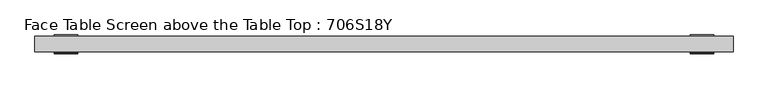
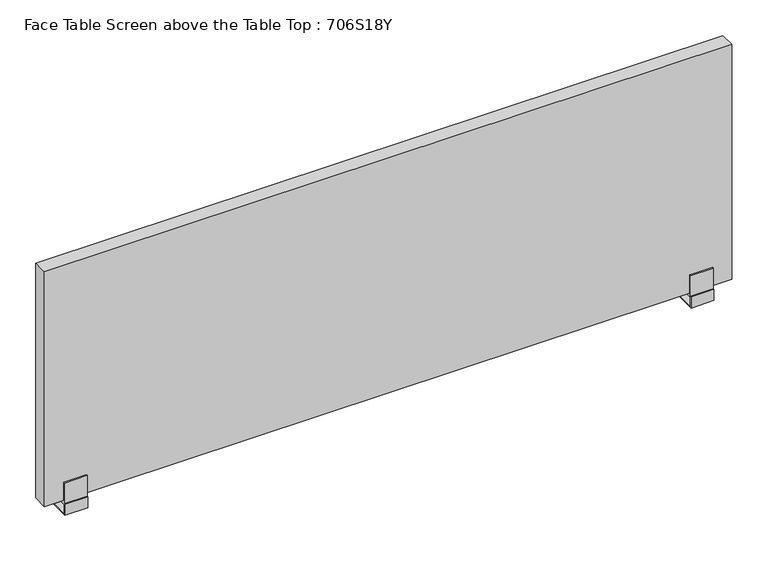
"""IFC4 building model written with IfcOpenShell, lengths in millimetres: furniture geometry, Face Table Screen above the Table Top : 706S18Y."""

from ifc_helpers import new_model, si_unit, frame, origin, place, context, project, spatial, polyline, circle_curve, outline, extrude, source, transform, mapped, element, save
from ifc_brep_helpers import plane_surface, cylinder_surface, advanced_brep


def face_table_screen_above_the_table_top_706s18y_99b6ad5b(model_context):
    return source(origin(), model_context, "Body", "SolidModel", [
        advanced_brep(
        [(-825.0, 0.0, -39.4406633), (-815.0, 0.0, -39.4406633), (-815.0, 0.0, -28.0), (-825.0, 0.0, -28.0), (-850.0, 23.0, -25.0), (-850.0, -23.0, -25.0), (-790.0, -23.0, -25.0), (-790.0, 23.0, -25.0), (-850.0, -23.0, 0.0), (-850.0, 23.0, -28.0), (-850.0, -26.0, -28.0), (-850.0, -26.0, 3.0), (-850.0, -23.0, 3.0), (-850.0, -23.0, 60.0), (-850.0, -20.0, 60.0), (-850.0, -20.0, 10.0), (-850.0, 20.0, 10.0), (-850.0, 20.0, 60.0), (-850.0, 23.0, 60.0), (-850.0, 23.0, 0.0), (-790.0, -23.0, 0.0), (-790.0, 23.0, 0.0), (-790.0, 23.0, 60.0), (-790.0, 20.0, 60.0), (-790.0, 20.0, 10.0), (-790.0, -20.0, 10.0), (-790.0, -20.0, 60.0), (-790.0, -23.0, 60.0), (-790.0, -23.0, 3.0), (-790.0, -26.0, 3.0), (-790.0, -26.0, -28.0), (-790.0, 23.0, -28.0)],
        [
            (0, 1, circle_curve(frame((-820.0, 0.0, -39.4406633), z_axis=(0.0, 0.0, -1.0), x_axis=(1.0, 0.0, 0.0)), 5.0)),
            (1, 0, circle_curve(frame((-820.0, 0.0, -39.4406633), z_axis=(0.0, 0.0, -1.0), x_axis=(1.0, 0.0, 0.0)), 5.0)),
            (1, 2),
            (2, 3, circle_curve(frame((-820.0, 0.0, -28.0), z_axis=(0.0, 0.0, -1.0), x_axis=(1.0, 0.0, 0.0)), 5.0)),
            (3, 0),
            (3, 2, circle_curve(frame((-820.0, 0.0, -28.0), z_axis=(0.0, 0.0, -1.0), x_axis=(1.0, 0.0, 0.0)), 5.0)),
            (4, 5),
            (5, 6),
            (6, 7),
            (7, 4),
            (8, 5),
            (4, 9),
            (9, 10),
            (10, 11),
            (11, 12),
            (12, 13),
            (13, 14),
            (14, 15),
            (15, 16),
            (16, 17),
            (17, 18),
            (18, 19),
            (19, 8),
            (20, 21),
            (21, 22),
            (22, 23),
            (23, 24),
            (24, 25),
            (25, 26),
            (26, 27),
            (27, 28),
            (28, 29),
            (29, 30),
            (30, 31),
            (31, 7),
            (6, 20),
            (19, 21),
            (20, 8),
            (18, 22),
            (17, 23),
            (16, 24),
            (15, 25),
            (14, 26),
            (13, 27),
            (12, 28),
            (11, 29),
            (10, 30),
            (9, 31),
        ],
        [
            plane_surface(frame((-815.0, 0.0, -39.4406633), z_axis=(0.0, 0.0, -1.0), x_axis=(0.0, -1.0, 0.0))),
            cylinder_surface(frame((-820.0, 0.0, -39.4406633), z_axis=(0.0, 0.0, 1.0), x_axis=(1.0, 0.0, 0.0)), 5.0),
            plane_surface(frame((-815.0, 0.0, -25.0), z_axis=(0.0, 0.0, 1.0), x_axis=(0.0, 1.0, 0.0))),
            plane_surface(frame((-850.0, 23.0, 0.0), z_axis=(-1.0, 0.0, 0.0), x_axis=(0.0, -1.0, 0.0))),
            plane_surface(frame((-790.0, 23.0, 0.0), z_axis=(1.0, 0.0, 0.0), x_axis=(0.0, 1.0, 0.0))),
            plane_surface(frame((-790.0, -23.0, 0.0), z_axis=(0.0, 0.0, -1.0), x_axis=(-1.0, 0.0, 0.0))),
            plane_surface(frame((-790.0, 23.0, 0.0), z_axis=(0.0, 1.0, 0.0), x_axis=(-1.0, 0.0, 0.0))),
            plane_surface(frame((-790.0, 23.0, 60.0), z_axis=(0.0, 0.0, 1.0), x_axis=(-1.0, 0.0, 0.0))),
            plane_surface(frame((-790.0, 20.0, 60.0), z_axis=(0.0, -1.0, 0.0), x_axis=(-1.0, 0.0, 0.0))),
            plane_surface(frame((-790.0, 20.0, 10.0), z_axis=(0.0, 0.0, 1.0), x_axis=(-1.0, 0.0, 0.0))),
            plane_surface(frame((-790.0, -20.0, 10.0), z_axis=(0.0, 1.0, 0.0), x_axis=(-1.0, 0.0, 0.0))),
            plane_surface(frame((-790.0, -20.0, 60.0), z_axis=(0.0, 0.0, 1.0), x_axis=(-1.0, 0.0, 0.0))),
            plane_surface(frame((-790.0, -23.0, 60.0), z_axis=(0.0, -1.0, 0.0), x_axis=(-1.0, 0.0, 0.0))),
            plane_surface(frame((-790.0, -23.0, 3.0), z_axis=(0.0, 0.0, 1.0), x_axis=(-1.0, 0.0, 0.0))),
            plane_surface(frame((-790.0, -26.0, 3.0), z_axis=(0.0, -1.0, 0.0), x_axis=(-1.0, 0.0, 0.0))),
            plane_surface(frame((-790.0, -26.0, -28.0), z_axis=(0.0, 0.0, -1.0), x_axis=(-1.0, 0.0, 0.0))),
            plane_surface(frame((-790.0, 23.0, -28.0), z_axis=(0.0, 1.0, 0.0), x_axis=(-1.0, 0.0, 0.0))),
            plane_surface(frame((-790.0, -23.0, -25.0), z_axis=(0.0, 1.0, 0.0), x_axis=(-1.0, 0.0, 0.0))),
        ],
        [
            (0, [[1, 2]]),
            (1, [[-2, 3, 4, 5]]),
            (1, [[-1, -5, 6, -3]]),
            (2, [[7, 8, 9, 10]]),
            (3, [[11, -7, 12, 13, 14, 15, 16, 17, 18, 19, 20, 21, 22, 23]]),
            (4, [[24, 25, 26, 27, 28, 29, 30, 31, 32, 33, 34, 35, -9, 36]]),
            (5, [[-23, 37, -24, 38]]),
            (6, [[-22, 39, -25, -37]]),
            (7, [[-21, 40, -26, -39]]),
            (8, [[-20, 41, -27, -40]]),
            (9, [[-19, 42, -28, -41]]),
            (10, [[-18, 43, -29, -42]]),
            (11, [[-17, 44, -30, -43]]),
            (12, [[-16, 45, -31, -44]]),
            (13, [[-15, 46, -32, -45]]),
            (14, [[-14, 47, -33, -46]]),
            (15, [[-13, 48, -34, -47], [-4, -6]]),
            (16, [[-12, -10, -35, -48]]),
            (17, [[-11, -38, -36, -8]]),
        ],
    ),
        advanced_brep(
        [(815.0, 0.0, -39.4406633), (825.0, 0.0, -39.4406633), (825.0, 0.0, -28.0), (815.0, 0.0, -28.0), (790.0, 23.0, -25.0), (790.0, -23.0, -25.0), (850.0, -23.0, -25.0), (850.0, 23.0, -25.0), (790.0, -23.0, 0.0), (790.0, 23.0, -28.0), (790.0, -26.0, -28.0), (790.0, -26.0, 3.0), (790.0, -23.0, 3.0), (790.0, -23.0, 60.0), (790.0, -20.0, 60.0), (790.0, -20.0, 10.0), (790.0, 20.0, 10.0), (790.0, 20.0, 60.0), (790.0, 23.0, 60.0), (790.0, 23.0, 0.0), (850.0, -23.0, 0.0), (850.0, 23.0, 0.0), (850.0, 23.0, 60.0), (850.0, 20.0, 60.0), (850.0, 20.0, 10.0), (850.0, -20.0, 10.0), (850.0, -20.0, 60.0), (850.0, -23.0, 60.0), (850.0, -23.0, 3.0), (850.0, -26.0, 3.0), (850.0, -26.0, -28.0), (850.0, 23.0, -28.0)],
        [
            (0, 1, circle_curve(frame((820.0, 0.0, -39.4406633), z_axis=(0.0, 0.0, -1.0), x_axis=(1.0, 0.0, 0.0)), 5.0)),
            (1, 0, circle_curve(frame((820.0, 0.0, -39.4406633), z_axis=(0.0, 0.0, -1.0), x_axis=(1.0, 0.0, 0.0)), 5.0)),
            (1, 2),
            (2, 3, circle_curve(frame((820.0, 0.0, -28.0), z_axis=(0.0, 0.0, -1.0), x_axis=(1.0, 0.0, 0.0)), 5.0)),
            (3, 0),
            (3, 2, circle_curve(frame((820.0, 0.0, -28.0), z_axis=(0.0, 0.0, -1.0), x_axis=(1.0, 0.0, 0.0)), 5.0)),
            (4, 5),
            (5, 6),
            (6, 7),
            (7, 4),
            (8, 5),
            (4, 9),
            (9, 10),
            (10, 11),
            (11, 12),
            (12, 13),
            (13, 14),
            (14, 15),
            (15, 16),
            (16, 17),
            (17, 18),
            (18, 19),
            (19, 8),
            (20, 21),
            (21, 22),
            (22, 23),
            (23, 24),
            (24, 25),
            (25, 26),
            (26, 27),
            (27, 28),
            (28, 29),
            (29, 30),
            (30, 31),
            (31, 7),
            (6, 20),
            (19, 21),
            (20, 8),
            (18, 22),
            (17, 23),
            (16, 24),
            (15, 25),
            (14, 26),
            (13, 27),
            (12, 28),
            (11, 29),
            (10, 30),
            (9, 31),
        ],
        [
            plane_surface(frame((825.0, 0.0, -39.4406633), z_axis=(0.0, 0.0, -1.0), x_axis=(0.0, -1.0, 0.0))),
            cylinder_surface(frame((820.0, 0.0, -39.4406633), z_axis=(0.0, 0.0, 1.0), x_axis=(1.0, 0.0, 0.0)), 5.0),
            plane_surface(frame((825.0, 0.0, -25.0), z_axis=(0.0, 0.0, 1.0), x_axis=(0.0, 1.0, 0.0))),
            plane_surface(frame((790.0, 23.0, 0.0), z_axis=(-1.0, 0.0, 0.0), x_axis=(0.0, -1.0, 0.0))),
            plane_surface(frame((850.0, 23.0, 0.0), z_axis=(1.0, 0.0, 0.0), x_axis=(0.0, 1.0, 0.0))),
            plane_surface(frame((850.0, -23.0, 0.0), z_axis=(0.0, 0.0, -1.0), x_axis=(-1.0, 0.0, 0.0))),
            plane_surface(frame((850.0, 23.0, 0.0), z_axis=(0.0, 1.0, 0.0), x_axis=(-1.0, 0.0, 0.0))),
            plane_surface(frame((850.0, 23.0, 60.0), z_axis=(0.0, 0.0, 1.0), x_axis=(-1.0, 0.0, 0.0))),
            plane_surface(frame((850.0, 20.0, 60.0), z_axis=(0.0, -1.0, 0.0), x_axis=(-1.0, 0.0, 0.0))),
            plane_surface(frame((850.0, 20.0, 10.0), z_axis=(0.0, 0.0, 1.0), x_axis=(-1.0, 0.0, 0.0))),
            plane_surface(frame((850.0, -20.0, 10.0), z_axis=(0.0, 1.0, 0.0), x_axis=(-1.0, 0.0, 0.0))),
            plane_surface(frame((850.0, -20.0, 60.0), z_axis=(0.0, 0.0, 1.0), x_axis=(-1.0, 0.0, 0.0))),
            plane_surface(frame((850.0, -23.0, 60.0), z_axis=(0.0, -1.0, 0.0), x_axis=(-1.0, 0.0, 0.0))),
            plane_surface(frame((850.0, -23.0, 3.0), z_axis=(0.0, 0.0, 1.0), x_axis=(-1.0, 0.0, 0.0))),
            plane_surface(frame((850.0, -26.0, 3.0), z_axis=(0.0, -1.0, 0.0), x_axis=(-1.0, 0.0, 0.0))),
            plane_surface(frame((850.0, -26.0, -28.0), z_axis=(0.0, 0.0, -1.0), x_axis=(-1.0, 0.0, 0.0))),
            plane_surface(frame((850.0, 23.0, -28.0), z_axis=(0.0, 1.0, 0.0), x_axis=(-1.0, 0.0, 0.0))),
            plane_surface(frame((850.0, -23.0, -25.0), z_axis=(0.0, 1.0, 0.0), x_axis=(-1.0, 0.0, 0.0))),
        ],
        [
            (0, [[1, 2]]),
            (1, [[-2, 3, 4, 5]]),
            (1, [[-1, -5, 6, -3]]),
            (2, [[7, 8, 9, 10]]),
            (3, [[11, -7, 12, 13, 14, 15, 16, 17, 18, 19, 20, 21, 22, 23]]),
            (4, [[24, 25, 26, 27, 28, 29, 30, 31, 32, 33, 34, 35, -9, 36]]),
            (5, [[-23, 37, -24, 38]]),
            (6, [[-22, 39, -25, -37]]),
            (7, [[-21, 40, -26, -39]]),
            (8, [[-20, 41, -27, -40]]),
            (9, [[-19, 42, -28, -41]]),
            (10, [[-18, 43, -29, -42]]),
            (11, [[-17, 44, -30, -43]]),
            (12, [[-16, 45, -31, -44]]),
            (13, [[-15, 46, -32, -45]]),
            (14, [[-14, 47, -33, -46]]),
            (15, [[-13, 48, -34, -47], [-4, -6]]),
            (16, [[-12, -10, -35, -48]]),
            (17, [[-11, -38, -36, -8]]),
        ],
    ),
        extrude(outline(polyline([(900.0, -20.0), (-900.0, -20.0), (-900.0, 20.0), (900.0, 20.0), (900.0, -20.0)])), frame((0.0, 0.0, 10.0), z_axis=(0.0, 0.0, 1.0), x_axis=(1.0, 0.0, 0.0)), (0.0, 0.0, 1.0), 650.0),
    ])


if __name__ == "__main__":
    model = new_model("IFC4")
    model_context = context("Model", 3, world=origin())
    ifc_project = project(units=[si_unit("LENGTHUNIT", "METRE", prefix="MILLI")], contexts=[model_context])
    site = spatial("IfcSite", under=ifc_project)
    building = spatial("IfcBuilding", under=site)
    placement = place(None, origin())
    face_table_screen_above_the_table_top_706s18y_shape = face_table_screen_above_the_table_top_706s18y_99b6ad5b(model_context)
    element("IfcFurniture", 1, ObjectType="Face Table Screen above the Table Top : 706S18Y", at=placement, inside=building, context=model_context, shape_type="MappedRepresentation", body=[
        mapped(face_table_screen_above_the_table_top_706s18y_shape, transform((0.0, 0.0, 0.0), x_axis=(1.0, 0.0, 0.0), y_axis=(0.0, 1.0, 0.0), z_axis=(0.0, 0.0, 1.0))),
    ])
    save(model, "model.ifc")
